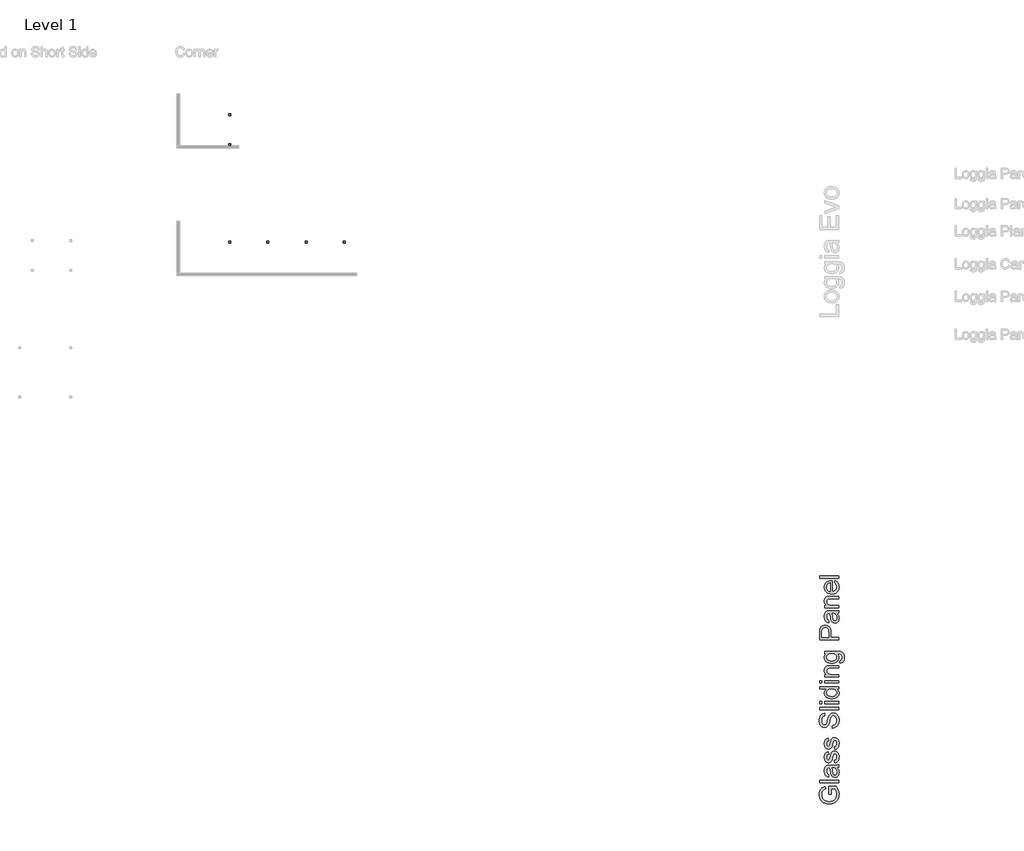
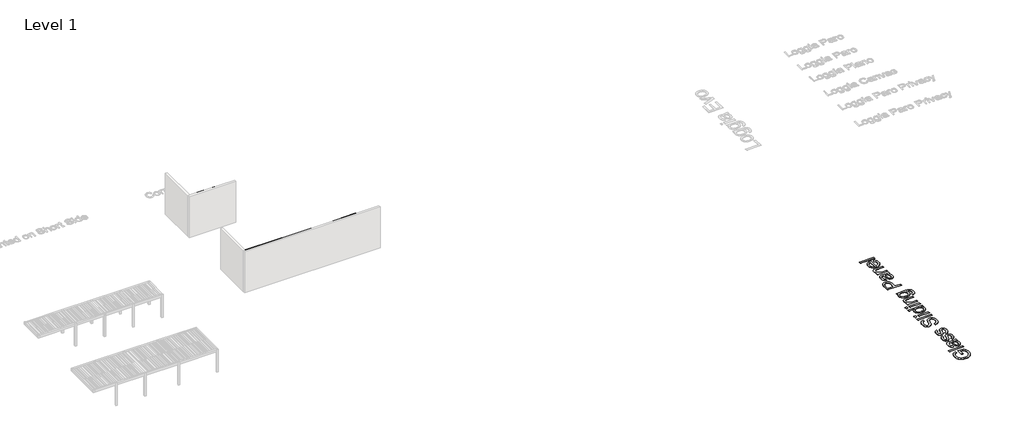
# One storey, part 21 of 69: 3 proxies.
"""IFC4 building model written with IfcOpenShell, lengths in millimetres."""

from ifc_helpers import new_model, si_unit, origin, origin_with_axes, place, context, project, spatial, polyline, outline, extrude, transform, mapped, element, save
from components import generic_models_d841620f, generic_models_8b32eeaf

model = new_model("IFC4")

# Units and contexts
model_context = context("Model", 3, world=origin())
ifc_project = project(units=[si_unit("LENGTHUNIT", "METRE", prefix="MILLI")], contexts=[model_context])

# Site, building, storey
site = spatial("IfcSite", under=ifc_project)
building = spatial("IfcBuilding", under=site)
storey = spatial("IfcBuildingStorey", under=building, Name="Level 1", Elevation=0.0)

# Proxies
placement = place(None, origin())
generic_models_shape = generic_models_d841620f(model_context)
element("IfcBuildingElementProxy", 1, Name="Renson_Camargue_Skye_Facade-Mounted_Patio covers : Renson_Camargue_Skye_Facade-Mounted_Patio covers", ObjectType="Renson_Camargue_Skye_Facade-Mounted_Patio covers : Renson_Camargue_Skye_Facade-Mounted_Patio covers", at=placement, inside=storey, context=model_context, shape_type="MappedRepresentation", body=[
    mapped(generic_models_shape, transform((135155.025111, -10875.9863343, 0.0), x_axis=(1.0, 0.0, 0.0), y_axis=(0.0, 1.0, 0.0), z_axis=(0.0, 0.0, 1.0))),
])
generic_models_2_shape = generic_models_8b32eeaf(model_context)
element("IfcBuildingElementProxy", 2, Name="Renson_Camargue_Skye_Facade-Mounted_Patio covers : Renson_Camargue_Skye_Facade-Mounted_Patio covers", ObjectType="Renson_Camargue_Skye_Facade-Mounted_Patio covers : Renson_Camargue_Skye_Facade-Mounted_Patio covers", at=placement, inside=storey, context=model_context, shape_type="MappedRepresentation", body=[
    mapped(generic_models_2_shape, transform((135155.025111, -20875.9863343, 0.0), x_axis=(1.0, 0.0, 0.0), y_axis=(0.0, 1.0, 0.0), z_axis=(0.0, 0.0, 1.0))),
])
element("IfcBuildingElementProxy", 3, Name="1500mm", ObjectType="1500mm", at=placement, inside=storey, context=model_context, shape_type="SweptSolid", body=[
    extrude(outline(polyline([(184249.661956, -63004.2411081), (184061.3063744, -63004.2411081), (184061.3063744, -62392.0854681), (184624.533709, -62392.0854681), (184679.9229419, -62465.8802971), (184728.0005202, -62540.8477499), (184768.7664438, -62616.9878266), (184802.2207127, -62694.3005271), (184828.2943491, -62772.693881), (184846.9183751, -62852.0759178), (184858.0927907, -62932.4466374), (184861.8175959, -63013.8060399), (184855.8969951, -63121.9978355), (184838.1351925, -63225.1082609), (184824.8138406, -63274.7579599), (184808.5321882, -63323.1373163), (184789.2902354, -63370.2463302), (184767.0879822, -63416.0850017), (184742.0806287, -63459.9031962), (184714.4233753, -63500.9507794), (184684.1162219, -63539.2277514), (184651.1591684, -63574.7341121), (184615.552215, -63607.4698615), (184577.2953616, -63637.4349996), (184536.3886082, -63664.6295265), (184492.8319548, -63689.0534421), (184400.4705813, -63729.3710095), (184302.9128748, -63758.1692719), (184200.158835, -63775.4482294), (184092.208462, -63781.2078819), (183984.2465927, -63775.471222), (183879.986536, -63758.2612424), (183779.4282919, -63729.5779431), (183682.5718604, -63689.4213241), (183636.5952332, -63665.2187125), (183593.670877, -63638.5041567), (183553.7987917, -63609.2776566), (183516.9789773, -63577.5392123), (183483.2114339, -63543.2888237), (183452.4961613, -63506.5264909), (183424.8331597, -63467.2522139), (183400.2224291, -63425.4659925), (183378.5806211, -63381.6075609), (183359.8243875, -63336.116653), (183343.9537283, -63288.9932686), (183330.9686435, -63240.237408), (183313.6551971, -63137.8282576), (183307.8840483, -63028.8892017), (183311.2294752, -62949.3577129), (183321.2657559, -62873.7349703), (183337.9928903, -62802.0209738), (183361.4108786, -62734.2157236), (183390.795453, -62671.917207), (183425.4223458, -62616.7234114), (183465.291557, -62568.6343368), (183510.4030866, -62527.6499833), (183561.7801065, -62492.4597712), (183620.4457885, -62461.7531209), (183686.4001324, -62435.5300325), (183759.6431384, -62413.7905058), (183808.5714437, -62587.4308075), (183755.8838442, -62605.7674257), (183709.2892903, -62626.1963728), (183668.7877819, -62648.7176487), (183634.379319, -62673.3312534), (183604.5808774, -62701.7501375), (183577.9094328, -62735.6872516), (183554.3649851, -62775.1425956), (183533.9475343, -62820.1161695), (183517.4503261, -62869.1479416), (183505.666606, -62920.7778804), (183498.5963739, -62975.0059858), (183496.2396298, -63031.8322577), (183498.7803149, -63099.1891518), (183506.4023699, -63161.8325577), (183519.1057951, -63219.7624757), (183536.8905903, -63272.9789055), (183558.8025616, -63321.3783805), (183583.8875152, -63364.8574338), (183612.1454509, -63403.4160655), (183643.5763689, -63437.0542754), (183677.4100161, -63466.4963313), (183712.8761397, -63492.4665009), (183749.9747397, -63514.9647842), (183788.705816, -63533.9911811), (183858.3734688, -63559.7429208), (183930.8922071, -63578.1370205), (184006.2620309, -63589.1734804), (184084.4829401, -63592.8523003), (184178.5342714, -63588.4262201), (184264.607162, -63575.1479793), (184342.7016118, -63553.0175781), (184412.8176208, -63522.0350163), (184474.6907739, -63482.6026649), (184528.0566558, -63435.1228949), (184572.9152666, -63379.5957063), (184609.2666062, -63316.021099), (184637.3520973, -63247.3766179), (184657.4131624, -63176.6398081), (184669.4498014, -63103.8106693), (184673.4620144, -63028.8892017), (184670.4384842, -62963.2567545), (184661.3678938, -62898.4290492), (184646.2502431, -62834.4060857), (184625.085532, -62771.1878641), (184600.4949199, -62712.1543002), (184575.0995659, -62660.6853098), (184548.8994701, -62616.780893), (184521.8946324, -62580.4410496), (184249.661956, -62580.4410496), (184249.661956, -63004.2411081)])), origin_with_axes(), (0.0, 0.0, 1.0), 5.0),
    extrude(outline(polyline([(184838.2731482, -62109.5520958), (183331.428496, -62109.5520958), (183331.428496, -61921.1965143), (184838.2731482, -61921.1965143), (184838.2731482, -62109.5520958)])), origin_with_axes(), (0.0, 0.0, 1.0), 5.0),
    extrude(outline(polyline([(184697.0064621, -60932.3297112), (184738.9220169, -60976.9928847), (184774.1697106, -61022.3228443), (184802.7495431, -61068.31959), (184824.6615144, -61114.9831218), (184840.9173001, -61162.8422701), (184852.5285755, -61212.4258653), (184859.4953408, -61263.7339073), (184861.8175959, -61316.7663962), (184856.2303881, -61400.6319948), (184849.2463784, -61438.6934109), (184839.4687647, -61474.1739049), (184826.8975472, -61507.0734767), (184811.5327257, -61537.3921265), (184793.3743004, -61565.1298541), (184772.4222711, -61590.2866596), (184749.2974388, -61612.6613575), (184724.6206043, -61632.0527624), (184698.3917677, -61648.4608742), (184670.6109289, -61661.8856929), (184641.278088, -61672.3272186), (184610.3932448, -61679.7854512), (184543.9675521, -61685.7520373), (184504.029363, -61683.4987601), (184465.8845986, -61676.7389285), (184429.533259, -61665.4725424), (184394.975344, -61649.6996018), (184362.9696105, -61630.2593376), (184334.2748148, -61607.9909806), (184308.8909572, -61582.8945308), (184286.8180375, -61554.9699881), (184250.9495429, -61492.6599751), (184225.0138623, -61423.0842928), (184210.574494, -61355.3020352), (184196.6869486, -61260.1125689), (184182.4315213, -61156.507802), (184166.888507, -61067.5263445), (184150.0579058, -60993.1681962), (184131.9397175, -60933.4333572), (184090.00117, -60932.3297112), (184044.3378174, -60935.5716713), (184005.9401341, -60945.2975516), (183974.8081203, -60961.507352), (183950.9417759, -60984.2010725), (183927.1214167, -61023.4264903), (183910.1068744, -61071.2051644), (183899.898149, -61127.5370949), (183896.4952406, -61192.4222818), (183898.7600141, -61252.754929), (183905.5543347, -61304.6262903), (183916.8782024, -61348.0363658), (183932.7316171, -61382.9851553), (183954.3561806, -61411.7029436), (183982.9934947, -61436.4200151), (184018.6435593, -61457.13637), (184061.3063744, -61473.8520081), (184037.7619267, -61662.2075897), (183983.4993324, -61647.8716882), (183934.7549681, -61629.5120773), (183891.5288336, -61607.1287572), (183853.8209291, -61580.7217277), (183820.8724979, -61549.152854), (183791.9247835, -61511.2840011), (183766.9777857, -61467.1151691), (183746.0315046, -61416.6463579), (183729.4538221, -61360.9007393), (183717.6126204, -61300.9014851), (183710.5078994, -61236.6485954), (183708.1396591, -61168.1420701), (183710.2319879, -61101.1760507), (183716.5089744, -61040.8089146), (183726.9706187, -60987.0406617), (183741.6169206, -60939.8712921), (183759.4247084, -60898.9099312), (183779.3708104, -60863.7657044), (183801.4552264, -60834.4386116), (183825.6779565, -60810.9286528), (183852.636809, -60791.8677669), (183882.929592, -60775.8878928), (183916.5563056, -60762.9890303), (183953.5169498, -60753.1711796), (184018.632063, -60746.2733922), (184118.3280837, -60743.9741297), (184352.6689146, -60743.9741297), (184556.7974367, -60741.5828967), (184679.8999493, -60734.4091978), (184760.788003, -60720.245741), (184838.2731482, -60696.8852343), (184838.2731482, -60885.2408158), (184806.8192376, -60901.9794466), (184772.7901531, -60915.4071394), (184736.1858946, -60925.5238943), (184697.0064621, -60932.3297112)]), holes=[polyline([(184320.295299, -60932.3297112), (184336.5970699, -60989.25945), (184351.6572391, -61058.8811176), (184378.0527723, -61236.2002392), (184392.4921406, -61333.9188942), (184408.5869779, -61398.2522581), (184429.4642811, -61440.4207318), (184442.8689813, -61457.4007852), (184458.2510472, -61471.6447162), (184475.0586559, -61482.9111023), (184492.7399843, -61490.9585209), (184511.2950324, -61495.7869721), (184530.7238003, -61497.3964558), (184559.9934115, -61493.8900806), (184586.733834, -61483.3709548), (184610.9450678, -61465.8390784), (184632.6271129, -61441.2944516), (184650.4923823, -61409.9670004), (184663.253289, -61372.0866512), (184670.9098331, -61327.653404), (184673.4620144, -61276.6672587), (184670.6454179, -61224.6119564), (184662.1956283, -61175.49971), (184648.1126457, -61129.3305196), (184628.39647, -61086.1043852), (184604.6795776, -61047.1088937), (184578.5944449, -61013.6316322), (184550.1410718, -60985.6726005), (184519.3194584, -60963.2317988), (184491.7283088, -60950.1949806), (184458.2510472, -60940.8829676), (184418.8876737, -60935.2957598), (184373.6381883, -60933.4333572), (184320.295299, -60932.3297112)])]), origin_with_axes(), (0.0, 0.0, 1.0), 5.0),
    extrude(outline(polyline([(184508.6508806, -60555.6185482), (184485.1064329, -60367.2629666), (184528.0566558, -60355.8816174), (184565.6725898, -60337.5564955), (184597.9542349, -60312.287601), (184624.901591, -60280.0749338), (184646.1467763, -60240.8265234), (184661.3219086, -60194.4503994), (184670.4269879, -60140.9465617), (184673.4620144, -60080.3150104), (184670.6799068, -60019.7524369), (184662.333584, -59967.5591789), (184648.4230461, -59923.7352362), (184628.948293, -59888.2806089), (184605.725742, -59860.9193855), (184580.5718106, -59841.3756545), (184553.4864987, -59829.6494159), (184524.4698063, -59825.7406697), (184499.0399634, -59829.6724086), (184476.461206, -59841.467625), (184456.733534, -59861.1263191), (184439.8569475, -59888.6484909), (184415.9446178, -59959.1898635), (184386.1461762, -60082.5223024), (184336.4361216, -60254.4151646), (184314.3057203, -60317.8058309), (184293.9917364, -60366.1593206), (184272.7120622, -60404.522515), (184247.6845902, -60437.942295), (184218.9093204, -60466.4186606), (184186.3862528, -60489.951612), (184151.0925739, -60508.3802007), (184114.0054702, -60521.5434784), (184075.1249419, -60529.4414449), (184034.4509888, -60532.0741005), (183997.2604183, -60529.958779), (183961.472398, -60523.6128146), (183927.0869277, -60513.0362072), (183894.1040076, -60498.2289569), (183863.1904237, -60479.7658793), (183835.0129621, -60458.2217899), (183809.5716229, -60433.5966889), (183786.866406, -60405.8905761), (183756.5621267, -60353.8812591), (183731.1322837, -60286.1449867), (183713.8878152, -60207.832107), (183708.1396591, -60124.0929678), (183710.4504178, -60060.794272), (183717.3826942, -60001.4962929), (183728.9364881, -59946.1990305), (183745.1117996, -59894.9024848), (183765.2303462, -59848.8252649), (183788.6138455, -59809.18598), (183815.2622975, -59775.9846299), (183845.1757023, -59749.2212147), (183879.4002241, -59727.516177), (183918.9820275, -59709.4899593), (183963.9211125, -59695.1425614), (184014.217479, -59684.4739836), (184037.7619267, -59872.8295651), (184006.2965198, -59881.8081851), (183978.4869403, -59896.6039391), (183954.333188, -59917.2168271), (183933.8352631, -59943.6468492), (183917.4990032, -59976.0089685), (183905.8302462, -60014.418148), (183898.828992, -60058.8743879), (183896.4952406, -60109.377688), (183898.7255252, -60167.9628957), (183905.416379, -60217.5349946), (183916.5678019, -60258.0939846), (183932.1797941, -60289.6398657), (183950.7578349, -60313.2992765), (183970.8074036, -60330.1988556), (183992.3285003, -60340.3386031), (184015.321125, -60343.7185189), (184044.2918321, -60338.1083185), (184070.1355423, -60321.2777172), (184093.2201375, -60292.4909511), (184111.7062078, -60251.0122562), (184151.8053452, -60088.7762963), (184201.0095621, -59922.3556787), (184240.4649061, -59812.3129769), (184259.7097329, -59773.5933969), (184282.863306, -59739.2884009), (184309.9256253, -59709.3979888), (184340.8966908, -59683.9221606), (184375.8224877, -59663.5621914), (184414.7490013, -59649.0193563), (184457.6762316, -59640.2936552), (184504.6041786, -59637.3850882), (184551.7390592, -59640.799493), (184597.4943824, -59651.0427073), (184641.8701481, -59668.1147311), (184684.8663562, -59692.0155645), (184724.7700564, -59722.3543328), (184759.868298, -59758.7401614), (184790.1610811, -59801.1730502), (184815.6484055, -59849.6529994), (184835.8474263, -59902.857933), (184850.2752983, -59959.465775), (184858.9320215, -60019.4765254), (184861.8175959, -60082.8901844), (184856.2533807, -60184.2646667), (184849.2981118, -60230.1407011), (184839.5607352, -60272.8092644), (184827.0412511, -60312.2703565), (184811.7396593, -60348.5239775), (184793.65596, -60381.5701274), (184772.7901531, -60411.4088061), (184749.1882238, -60438.3676585), (184722.8961575, -60462.7743296), (184693.9139541, -60484.6288194), (184662.2416135, -60503.9311278), (184627.8791359, -60520.6812549), (184590.8265212, -60534.8792007), (184508.6508806, -60555.6185482)])), origin_with_axes(), (0.0, 0.0, 1.0), 5.0),
    extrude(outline(polyline([(184508.6508806, -59496.1184021), (184485.1064329, -59307.7628205), (184528.0566558, -59296.3814713), (184565.6725898, -59278.0563494), (184597.9542349, -59252.7874549), (184624.901591, -59220.5747877), (184646.1467763, -59181.3263773), (184661.3219086, -59134.9502533), (184670.4269879, -59081.4464156), (184673.4620144, -59020.8148643), (184670.6799068, -58960.2522908), (184662.333584, -58908.0590328), (184648.4230461, -58864.2350901), (184628.948293, -58828.7804628), (184605.725742, -58801.4192394), (184580.5718106, -58781.8755084), (184553.4864987, -58770.1492698), (184524.4698063, -58766.2405236), (184499.0399634, -58770.1722624), (184476.461206, -58781.9674789), (184456.733534, -58801.626173), (184439.8569475, -58829.1483448), (184415.9446178, -58899.6897174), (184386.1461762, -59023.0221563), (184336.4361216, -59194.9150185), (184314.3057203, -59258.3056848), (184293.9917364, -59306.6591745), (184272.7120622, -59345.0223688), (184247.6845902, -59378.4421488), (184218.9093204, -59406.9185145), (184186.3862528, -59430.4514659), (184151.0925739, -59448.8800546), (184114.0054702, -59462.0433323), (184075.1249419, -59469.9412988), (184034.4509888, -59472.5739544), (183997.2604183, -59470.4586329), (183961.472398, -59464.1126685), (183927.0869277, -59453.5360611), (183894.1040076, -59438.7288108), (183863.1904237, -59420.2657332), (183835.0129621, -59398.7216438), (183809.5716229, -59374.0965428), (183786.866406, -59346.39043), (183756.5621267, -59294.381113), (183731.1322837, -59226.6448406), (183713.8878152, -59148.3319609), (183708.1396591, -59064.5928217), (183710.4504178, -59001.2941259), (183717.3826942, -58941.9961468), (183728.9364881, -58886.6988844), (183745.1117996, -58835.4023387), (183765.2303462, -58789.3251188), (183788.6138455, -58749.6858338), (183815.2622975, -58716.4844838), (183845.1757023, -58689.7210686), (183879.4002241, -58668.0160309), (183918.9820275, -58649.9898131), (183963.9211125, -58635.6424153), (184014.217479, -58624.9738375), (184037.7619267, -58813.329419), (184006.2965198, -58822.308039), (183978.4869403, -58837.1037929), (183954.333188, -58857.716681), (183933.8352631, -58884.1467031), (183917.4990032, -58916.5088223), (183905.8302462, -58954.9180019), (183898.828992, -58999.3742418), (183896.4952406, -59049.8775419), (183898.7255252, -59108.4627496), (183905.416379, -59158.0348485), (183916.5678019, -59198.5938385), (183932.1797941, -59230.1397195), (183950.7578349, -59253.7991304), (183970.8074036, -59270.6987095), (183992.3285003, -59280.838457), (184015.321125, -59284.2183728), (184044.2918321, -59278.6081724), (184070.1355423, -59261.7775711), (184093.2201375, -59232.990805), (184111.7062078, -59191.51211), (184151.8053452, -59029.2761502), (184201.0095621, -58862.8555326), (184240.4649061, -58752.8128308), (184259.7097329, -58714.0932508), (184282.863306, -58679.7882548), (184309.9256253, -58649.8978427), (184340.8966908, -58624.4220145), (184375.8224877, -58604.0620453), (184414.7490013, -58589.5192102), (184457.6762316, -58580.7935091), (184504.6041786, -58577.8849421), (184551.7390592, -58581.2993469), (184597.4943824, -58591.5425612), (184641.8701481, -58608.614585), (184684.8663562, -58632.5154184), (184724.7700564, -58662.8541867), (184759.868298, -58699.2400153), (184790.1610811, -58741.6729041), (184815.6484055, -58790.1528533), (184835.8474263, -58843.3577869), (184850.2752983, -58899.9656289), (184858.9320215, -58959.9763793), (184861.8175959, -59023.3900383), (184856.2533807, -59124.7645205), (184849.2981118, -59170.640555), (184839.5607352, -59213.3091183), (184827.0412511, -59252.7702104), (184811.7396593, -59289.0238314), (184793.65596, -59322.0699812), (184772.7901531, -59351.9086599), (184749.1882238, -59378.8675124), (184722.8961575, -59403.2741835), (184693.9139541, -59425.1286733), (184662.2416135, -59444.4309817), (184627.8791359, -59461.1811088), (184590.8265212, -59475.3790546), (184508.6508806, -59496.1184021)])), origin_with_axes(), (0.0, 0.0, 1.0), 5.0),
    extrude(outline(polyline([(184320.295299, -57824.462616), (184320.295299, -57636.1070344), (184375.1212126, -57627.4848002), (184424.8197709, -57614.4939672), (184469.3909739, -57597.1345356), (184508.8348216, -57575.4065052), (184543.9445595, -57548.2062302), (184575.5134332, -57514.4300645), (184603.5414427, -57474.0780082), (184628.028588, -57427.1500612), (184647.905712, -57375.3706704), (184662.1036578, -57320.4642826), (184670.6224252, -57262.4308978), (184673.4620144, -57201.2705161), (184671.312204, -57147.1688702), (184664.8627728, -57096.332177), (184654.1137207, -57048.7604365), (184639.0650478, -57004.4536487), (184620.2570808, -56964.5039633), (184598.2301464, -56930.0035299), (184572.9842445, -56900.9523486), (184544.5193751, -56877.3504194), (184514.0656437, -56859.0827791), (184482.8531556, -56846.0344646), (184450.881911, -56838.2054758), (184418.1519097, -56835.5958129), (184385.5598642, -56837.550186), (184355.1061328, -56843.4133053), (184326.7907155, -56853.1851708), (184300.6136123, -56866.8657825), (184276.4368674, -56886.5934545), (184254.1225251, -56914.5065009), (184233.6705855, -56950.6049217), (184215.0810484, -56994.8887168), (184185.512533, -57094.3548113), (184143.1601183, -57269.1447443), (184119.075344, -57367.2657702), (184095.5653852, -57449.1769956), (184072.6302421, -57514.8784207), (184050.2699146, -57564.3700454), (184020.2645393, -57614.6664119), (183986.9022409, -57658.1339689), (183950.1830193, -57694.7727164), (183910.1068744, -57724.5826543), (183867.0876736, -57747.6787458), (183821.5392841, -57764.175954), (183773.4617058, -57774.0742789), (183722.8549389, -57777.3737206), (183666.7644309, -57773.2925297), (183612.5363256, -57761.0489571), (183560.1706228, -57740.6430026), (183509.6673227, -57712.0746664), (183463.084265, -57675.6658452), (183422.4792898, -57631.7384357), (183387.852397, -57580.292438), (183359.2035866, -57521.3278519), (183336.7512886, -57456.8335397), (183320.7139329, -57388.7983632), (183311.0915194, -57317.2223225), (183307.8840483, -57242.1054176), (183311.2409715, -57160.1597032), (183321.3117411, -57083.1803957), (183338.0963572, -57011.1674951), (183361.5948196, -56944.1210015), (183391.6001948, -56883.2825166), (183427.9055492, -56829.893642), (183470.5108828, -56783.9543779), (183519.4161955, -56745.4647241), (183573.1959447, -56714.7235849), (183630.4245876, -56692.0298643), (183691.1021241, -56677.3835624), (183755.2285544, -56670.7846791), (183755.2285544, -56859.1402606), (183695.1258335, -56871.740219), (183642.8406049, -56893.7211682), (183598.3728687, -56925.0831083), (183561.722625, -56965.8260392), (183533.0738146, -57016.7087177), (183512.6103786, -57078.4899003), (183500.332317, -57151.1695869), (183496.2396298, -57234.7477777), (183500.2863318, -57320.9931129), (183512.4264376, -57394.6844751), (183532.6599474, -57455.8218642), (183545.8117287, -57481.6828188), (183560.986861, -57504.4052802), (183595.0389382, -57541.4234059), (183632.4479385, -57567.8649243), (183673.2138621, -57583.7298354), (183717.3367089, -57589.0181391), (183755.2975323, -57585.2703412), (183789.7174915, -57574.0269478), (183820.5965865, -57555.2879586), (183847.9348172, -57529.0533738), (183873.8245126, -57487.7586199), (183899.9901195, -57422.7354772), (183926.4316379, -57333.9839459), (183953.1490678, -57221.5040259), (183979.1997116, -57107.4146221), (184003.6408717, -57013.8346396), (184026.472548, -56940.7640783), (184047.6947406, -56888.2029382), (184079.8614226, -56830.4569613), (184116.0288212, -56780.8273809), (184156.1969366, -56739.314197), (184200.3657686, -56705.9174096), (184248.3053911, -56680.2461442), (184299.7858778, -56661.909526), (184354.8072287, -56650.907555), (184413.3694438, -56647.2402314), (184472.2880446, -56651.459378), (184529.4821985, -56664.1168179), (184584.9519056, -56685.2125511), (184638.6971659, -56714.7465775), (184688.6371467, -56752.2015632), (184732.6910156, -56797.0601739), (184770.8587726, -56849.3224099), (184803.1404177, -56908.988271), (184828.8116832, -56974.3218141), (184847.1483014, -57043.587096), (184858.1502723, -57116.7841167), (184861.8175959, -57193.9128762), (184857.8628645, -57290.26347), (184845.9986701, -57378.4516821), (184826.2250129, -57458.4775123), (184798.5418928, -57530.3409608), (184762.9033245, -57594.4788874), (184719.2633228, -57651.328152), (184667.6218877, -57700.8887545), (184607.9790193, -57743.160695), (184542.2660979, -57777.2127722), (184472.414504, -57802.1137848), (184398.4242378, -57817.8637327), (184320.295299, -57824.462616)])), origin_with_axes(), (0.0, 0.0, 1.0), 5.0),
    extrude(outline(polyline([(184838.2731482, -56388.2513068), (183331.428496, -56388.2513068), (183331.428496, -56199.8957253), (184838.2731482, -56199.8957253), (184838.2731482, -56388.2513068)])), origin_with_axes(), (0.0, 0.0, 1.0), 5.0),
    extrude(outline(polyline([(183519.7840775, -55917.362353), (183331.428496, -55917.362353), (183331.428496, -55729.0067714), (183519.7840775, -55729.0067714), (183519.7840775, -55917.362353)])), origin_with_axes(), (0.0, 0.0, 1.0), 5.0),
    extrude(outline(polyline([(184838.2731482, -55917.362353), (183731.6841067, -55917.362353), (183731.6841067, -55729.0067714), (184838.2731482, -55729.0067714), (184838.2731482, -55917.362353)])), origin_with_axes(), (0.0, 0.0, 1.0), 5.0),
    extrude(outline(polyline([(184838.2731482, -54763.6844161), (184660.5861446, -54763.6844161), (184707.749766, -54790.3731052), (184748.6249045, -54820.0393392), (184783.2115602, -54852.6831182), (184811.5097331, -54888.304442), (184833.5194231, -54926.9033107), (184849.2406302, -54968.4797243), (184858.6733545, -55013.0336828), (184861.8175959, -55060.5651862), (184857.2650562, -55122.7372434), (184843.6074372, -55182.3341266), (184820.8447387, -55239.3558359), (184788.9769609, -55293.8023712), (184748.9582976, -55343.9722782), (184701.7429428, -55388.1641029), (184647.3308964, -55426.3778452), (184585.7221585, -55458.613505), (184518.089353, -55484.2042963), (184445.6051036, -55502.4834329), (184368.2694105, -55513.4509149), (184286.0822735, -55517.1067422), (184205.4011534, -55513.7383227), (184128.536809, -55503.6330642), (184055.4892404, -55486.7909666), (183986.2584474, -55463.2120299), (183922.8677811, -55432.9077506), (183867.3405925, -55395.8896248), (183819.6768815, -55352.1576526), (183779.8766481, -55301.711834), (183748.4917154, -55246.3340975), (183726.0739063, -55187.8063713), (183712.6232209, -55126.1286555), (183708.1396591, -55061.3009502), (183711.3471302, -55013.8901581), (183720.9695436, -54969.1465104), (183737.0068994, -54927.0700072), (183759.4591974, -54887.6606485), (183787.0388507, -54851.3552941), (183818.4582724, -54818.5908039), (183853.7174623, -54789.3671779), (183892.8164206, -54763.6844161), (183331.428496, -54763.6844161), (183331.428496, -54575.3288346), (184838.2731482, -54575.3288346), (184838.2731482, -54763.6844161)]), holes=[polyline([(184285.3465095, -55328.7511607), (184376.6847111, -55323.4398644), (184417.7409166, -55316.800744), (184455.7218585, -55307.5059755), (184490.6275369, -55295.5555588), (184522.4579517, -55280.9494939), (184551.213103, -55263.687781), (184576.8929907, -55243.7704198), (184619.1419385, -55199.3716615), (184649.3197585, -55151.1561275), (184667.4264504, -55099.1238178), (184673.4620144, -55043.2747324), (184667.7023619, -54987.1612319), (184650.4234044, -54935.4393226), (184621.625142, -54888.1090047), (184581.3075746, -54845.170278), (184556.7485773, -54826.0720291), (184529.1488055, -54809.5202134), (184498.508259, -54795.5148309), (184464.8269379, -54784.0558816), (184388.3419718, -54768.7772825), (184299.6939073, -54763.6844161), (184202.5040827, -54768.869253), (184159.0997554, -54775.3502991), (184119.1558182, -54784.4237636), (184082.6722709, -54796.0896465), (184049.6491137, -54810.3479479), (184020.0863465, -54827.1986678), (183993.9839693, -54846.641806), (183951.3326505, -54890.5232303), (183934.5767752, -54914.2659893), (183920.8674228, -54939.2101131), (183910.2045931, -54965.3556014), (183902.5882861, -54992.7024544), (183896.4952406, -55051.0002543), (183902.3468636, -55107.9529857), (183919.9017325, -55159.9852954), (183949.1598475, -55207.0971834), (183990.1212084, -55249.2886497), (184015.2147841, -55267.9126757), (184043.6825276, -55284.0534983), (184075.5244387, -55297.7111174), (184110.7405175, -55308.885533), (184191.2951782, -55323.7847538), (184285.3465095, -55328.7511607)])]), origin_with_axes(), (0.0, 0.0, 1.0), 5.0),
    extrude(outline(polyline([(183519.7840775, -54292.7954623), (183331.428496, -54292.7954623), (183331.428496, -54104.4398807), (183519.7840775, -54104.4398807), (183519.7840775, -54292.7954623)])), origin_with_axes(), (0.0, 0.0, 1.0), 5.0),
    extrude(outline(polyline([(184838.2731482, -54292.7954623), (183731.6841067, -54292.7954623), (183731.6841067, -54104.4398807), (184838.2731482, -54104.4398807), (184838.2731482, -54292.7954623)])), origin_with_axes(), (0.0, 0.0, 1.0), 5.0),
    extrude(outline(polyline([(184838.2731482, -53821.9065084), (183731.6841067, -53821.9065084), (183731.6841067, -53633.5509269), (183886.1945447, -53633.5509269), (183844.4629309, -53602.4763946), (183808.2955322, -53568.113917), (183777.6923488, -53530.4634941), (183752.6533805, -53489.5251258), (183733.1786273, -53445.2988122), (183719.2680894, -53397.7845533), (183710.9217666, -53346.982349), (183708.1396591, -53292.8921994), (183710.38144, -53245.4929036), (183717.1067827, -53200.0479809), (183728.3156872, -53156.5574312), (183744.0081536, -53115.0212547), (183763.344951, -53077.0144461), (183785.4868485, -53044.1120001), (183810.4338463, -53016.3139169), (183838.1859443, -52993.6201963), (183868.7086536, -52974.984674), (183901.9674853, -52959.3611855), (183937.9624392, -52946.7497309), (183976.6935155, -52937.15031), (184048.1545931, -52929.7006996), (184158.7951031, -52927.2174962), (184838.2731482, -52927.2174962), (184838.2731482, -53115.5730777), (184184.1789608, -53115.5730777), (184086.7822026, -53120.9993371), (184048.6374382, -53127.7821614), (184017.528417, -53137.2781154), (183991.3283212, -53150.2114668), (183967.9103329, -53167.3064833), (183947.2744522, -53188.5631648), (183929.4206791, -53213.9815114), (183915.0157998, -53242.6878034), (183904.7266002, -53273.8083209), (183898.5530805, -53307.343064), (183896.4952406, -53343.2920327), (183901.1167581, -53400.4861867), (183914.9813108, -53453.610646), (183938.0888987, -53502.6654108), (183970.4395216, -53547.650481), (183991.0006762, -53567.783398), (184015.7119996, -53585.2319261), (184044.5734918, -53599.9960652), (184077.5851527, -53612.0758154), (184114.7469824, -53621.4711767), (184156.0589808, -53628.1821491), (184251.1334839, -53633.5509269), (184838.2731482, -53633.5509269), (184838.2731482, -53821.9065084)])), origin_with_axes(), (0.0, 0.0, 1.0), 5.0),
    extrude(outline(polyline([(184932.450939, -52715.317467), (184955.9953867, -52526.9618854), (184987.7252088, -52519.0064373), (185014.8565059, -52506.1765527), (185037.3892781, -52488.4722317), (185055.3235254, -52465.8934742), (185073.6716399, -52429.3581936), (185086.777436, -52386.7068748), (185094.6409136, -52337.9395178), (185097.2620728, -52283.0561226), (185094.2960243, -52224.2409886), (185085.3978785, -52172.5075831), (185070.5676356, -52127.8559059), (185049.8052955, -52090.2859572), (185023.6856738, -52059.0159876), (184992.7835862, -52033.2642479), (184957.0990327, -52013.0307382), (184916.6320132, -51998.3154584), (184883.3157, -51992.2683981), (184835.6060038, -51988.106733), (184697.0064621, -51985.4395885), (184730.1158417, -52015.8703273), (184758.8106373, -52048.1174835), (184783.090849, -52082.1810569), (184802.9564767, -52118.0610478), (184818.4075205, -52155.757456), (184829.4439803, -52195.2702815), (184836.0658563, -52236.5995244), (184838.2731482, -52279.7451847), (184835.7037224, -52332.9242515), (184827.995445, -52383.0165585), (184815.1483159, -52430.0221056), (184797.1623353, -52473.9408929), (184774.037503, -52514.7729203), (184745.7738191, -52552.5181878), (184712.3712835, -52587.1766954), (184673.8298964, -52618.7484432), (184631.6959116, -52646.9000381), (184587.5155833, -52671.298087), (184541.2889113, -52691.9425899), (184493.0158958, -52708.8335468), (184442.6965366, -52721.9709577), (184390.3308339, -52731.3548227), (184335.9187875, -52736.9851417), (184279.4603976, -52738.8619146), (184201.8947781, -52735.4934951), (184127.3871778, -52725.3882366), (184055.9375966, -52708.546139), (183987.5460344, -52684.9672024), (183924.4887612, -52655.0078124), (183869.0420467, -52619.0243547), (183821.205891, -52577.0168294), (183780.9802941, -52528.9852364), (183749.1125163, -52475.6998287), (183726.3498178, -52417.9308591), (183712.6921987, -52355.6783277), (183708.1396591, -52288.9422345), (183710.714833, -52243.8824383), (183718.4403549, -52200.8574893), (183731.3162247, -52159.8673876), (183749.3424425, -52120.9121333), (183772.5190082, -52083.9917261), (183800.8459218, -52049.1061663), (183834.3231834, -52016.2554538), (183872.9507929, -51985.4395885), (183731.6841067, -51985.4395885), (183731.6841067, -51797.084007), (184687.0736482, -51797.084007), (184806.7847487, -51800.3029745), (184907.6648896, -51809.9598768), (184989.7140708, -51826.0547141), (185052.9322924, -51848.5874863), (185103.9184377, -51878.0985201), (185149.2713899, -51915.1281422), (185188.9911491, -51959.6763526), (185223.0777152, -52011.7431512), (185250.4389386, -52070.7997077), (185269.9826696, -52136.3171918), (185281.7089082, -52208.2956034), (185285.6176544, -52286.7349426), (185280.1109208, -52379.0158418), (185263.5907199, -52461.984728), (185251.2005693, -52499.9771663), (185236.0570518, -52535.6416013), (185218.1601676, -52568.978033), (185197.5099165, -52599.9864615), (185174.0948023, -52627.9023819), (185147.9033287, -52651.9612896), (185118.9354957, -52672.1631845), (185087.1913032, -52688.5080666), (185052.6707513, -52700.9959358), (185015.37384, -52709.6267923), (184975.3005692, -52714.400636), (184932.450939, -52715.317467)]), holes=[polyline([(184266.5845277, -52550.5063331), (184359.7161541, -52545.4824446), (184439.3511097, -52530.4107791), (184474.107336, -52519.10703), (184505.4893947, -52505.2913366), (184533.4972856, -52488.963699), (184558.1310089, -52470.1241172), (184598.2876279, -52427.3693315), (184626.9709273, -52379.4871906), (184644.1809068, -52326.4776944), (184649.9175667, -52268.3408428), (184644.2153958, -52210.7788069), (184627.108883, -52158.0222295), (184598.5980284, -52110.0711107), (184558.6828319, -52066.9254505), (184534.24742, -52047.8272016), (184506.5585517, -52031.2753859), (184475.616227, -52017.2700033), (184441.4204459, -52005.811054), (184363.2685146, -51990.5324549), (184272.1027577, -51985.4395885), (184184.7422801, -51990.681907), (184108.809137, -52006.4088623), (184075.1278159, -52018.2040787), (184044.3033285, -52032.6204544), (184016.3356746, -52049.6579893), (183991.2248543, -52069.3166834), (183949.7806483, -52113.393545), (183920.177644, -52161.7470347), (183902.4158414, -52214.3771526), (183896.4952406, -52271.2838988), (183902.3238709, -52327.236451), (183919.809762, -52378.8433971), (183948.9529138, -52426.1047372), (183989.7533264, -52469.0204712), (184014.4790201, -52488.1187201), (184042.0270586, -52504.6705358), (184072.3974418, -52518.6759183), (184105.5901696, -52530.1348676), (184180.4426593, -52545.4134667), (184266.5845277, -52550.5063331)])]), origin_with_axes(), (0.0, 0.0, 1.0), 5.0),
    extrude(outline(polyline([(184838.2731482, -50902.3949947), (183331.428496, -50902.3949947), (183331.428496, -50343.950126), (183335.0153454, -50213.9038408), (183345.7758938, -50118.806345), (183357.0767688, -50066.394657), (183372.5852942, -50018.4205456), (183392.3014699, -49974.8840107), (183416.2252959, -49935.7850524), (183444.8511136, -49900.7098034), (183478.6732646, -49869.2443965), (183517.6917487, -49841.3888317), (183561.906566, -49817.143109), (183609.8576848, -49797.5074075), (183660.0850734, -49783.4819064), (183712.5887319, -49775.0666058), (183767.3686603, -49772.2615055), (183814.543778, -49774.155523), (183859.8679894, -49779.8375754), (183903.3412946, -49789.3076627), (183944.9636934, -49802.5657849), (183984.735186, -49819.611942), (184022.6557723, -49840.4461341), (184058.7254523, -49865.0683611), (184092.944226, -49893.478623), (184124.156714, -49926.8322992), (184151.207537, -49966.2847691), (184174.0966949, -50011.8360327), (184192.8241877, -50063.48609), (184207.3900154, -50121.234941), (184217.7941781, -50185.0825857), (184224.0366757, -50255.0290241), (184226.1175083, -50331.0742562), (184226.1175083, -50714.0394132), (184838.2731482, -50714.0394132), (184838.2731482, -50902.3949947)]), holes=[polyline([(184037.7619267, -50714.0394132), (184037.7619267, -50320.0377964), (184033.4393133, -50229.446855), (184020.471473, -50153.0193706), (184010.7455927, -50120.1169246), (183998.8584057, -50090.7553429), (183984.809912, -50064.9346253), (183968.6001116, -50042.654772), (183930.5013325, -50006.7632848), (183885.3668102, -49981.1265083), (183833.1965448, -49965.7444424), (183773.9905362, -49960.6170871), (183730.0286378, -49963.6406172), (183689.3776773, -49972.7112077), (183652.0376548, -49987.8288584), (183618.0085702, -50008.9935694), (183588.3940696, -50035.0787022), (183564.2977989, -50064.957618), (183545.7197582, -50098.6303168), (183532.6599474, -50136.0967988), (183523.003045, -50208.7534928), (183519.7840775, -50324.4523803), (183519.7840775, -50714.0394132), (184037.7619267, -50714.0394132)])]), origin_with_axes(), (0.0, 0.0, 1.0), 5.0),
    extrude(outline(polyline([(184697.0064621, -48830.4835979), (184738.9220169, -48875.1467714), (184774.1697106, -48920.476731), (184802.7495431, -48966.4734767), (184824.6615144, -49013.1370085), (184840.9173001, -49060.9961568), (184852.5285755, -49110.579752), (184859.4953408, -49161.887794), (184861.8175959, -49214.9202828), (184856.2303881, -49298.7858814), (184849.2463784, -49336.8472975), (184839.4687647, -49372.3277915), (184826.8975472, -49405.2273634), (184811.5327257, -49435.5460131), (184793.3743004, -49463.2837408), (184772.4222711, -49488.4405463), (184749.2974388, -49510.8152442), (184724.6206043, -49530.206649), (184698.3917677, -49546.6147608), (184670.6109289, -49560.0395796), (184641.278088, -49570.4811053), (184610.3932448, -49577.9393379), (184543.9675521, -49583.905924), (184504.029363, -49581.6526468), (184465.8845986, -49574.8928151), (184429.533259, -49563.626429), (184394.975344, -49547.8534885), (184362.9696105, -49528.4132243), (184334.2748148, -49506.1448673), (184308.8909572, -49481.0484174), (184286.8180375, -49453.1238747), (184250.9495429, -49390.8138618), (184225.0138623, -49321.2381795), (184210.574494, -49253.4559218), (184196.6869486, -49158.2664556), (184182.4315213, -49054.6616887), (184166.888507, -48965.6802311), (184150.0579058, -48891.3220828), (184131.9397175, -48831.5872439), (184090.00117, -48830.4835979), (184044.3378174, -48833.725558), (184005.9401341, -48843.4514382), (183974.8081203, -48859.6612386), (183950.9417759, -48882.3549592), (183927.1214167, -48921.5803769), (183910.1068744, -48969.3590511), (183899.898149, -49025.6909816), (183896.4952406, -49090.5761685), (183898.7600141, -49150.9088157), (183905.5543347, -49202.780177), (183916.8782024, -49246.1902524), (183932.7316171, -49281.139042), (183954.3561806, -49309.8568302), (183982.9934947, -49334.5739018), (184018.6435593, -49355.2902566), (184061.3063744, -49372.0058948), (184037.7619267, -49560.3614763), (183983.4993324, -49546.0255748), (183934.7549681, -49527.665964), (183891.5288336, -49505.2826439), (183853.8209291, -49478.8756144), (183820.8724979, -49447.3067407), (183791.9247835, -49409.4378878), (183766.9777857, -49365.2690558), (183746.0315046, -49314.8002445), (183729.4538221, -49259.054626), (183717.6126204, -49199.0553718), (183710.5078994, -49134.8024821), (183708.1396591, -49066.2959568), (183710.2319879, -48999.3299374), (183716.5089744, -48938.9628012), (183726.9706187, -48885.1945484), (183741.6169206, -48838.0251788), (183759.4247084, -48797.0638179), (183779.3708104, -48761.919591), (183801.4552264, -48732.5924982), (183825.6779565, -48709.0825395), (183852.636809, -48690.0216536), (183882.929592, -48674.0417794), (183916.5563056, -48661.142917), (183953.5169498, -48651.3250662), (184018.632063, -48644.4272788), (184118.3280837, -48642.1280164), (184352.6689146, -48642.1280164), (184556.7974367, -48639.7367834), (184679.8999493, -48632.5630845), (184760.788003, -48618.3996277), (184838.2731482, -48595.039121), (184838.2731482, -48783.3947025), (184806.8192376, -48800.1333333), (184772.7901531, -48813.5610261), (184736.1858946, -48823.677781), (184697.0064621, -48830.4835979)]), holes=[polyline([(184320.295299, -48830.4835979), (184336.5970699, -48887.4133366), (184351.6572391, -48957.0350042), (184378.0527723, -49134.3541259), (184392.4921406, -49232.0727809), (184408.5869779, -49296.4061448), (184429.4642811, -49338.5746185), (184442.8689813, -49355.5546718), (184458.2510472, -49369.7986028), (184475.0586559, -49381.0649889), (184492.7399843, -49389.1124076), (184511.2950324, -49393.9408588), (184530.7238003, -49395.5503425), (184559.9934115, -49392.0439672), (184586.733834, -49381.5248414), (184610.9450678, -49363.9929651), (184632.6271129, -49339.4483382), (184650.4923823, -49308.1208871), (184663.253289, -49270.2405379), (184670.9098331, -49225.8072906), (184673.4620144, -49174.8211454), (184670.6454179, -49122.7658431), (184662.1956283, -49073.6535967), (184648.1126457, -49027.4844063), (184628.39647, -48984.2582719), (184604.6795776, -48945.2627804), (184578.5944449, -48911.7855188), (184550.1410718, -48883.8264872), (184519.3194584, -48861.3856855), (184491.7283088, -48848.3488673), (184458.2510472, -48839.0368543), (184418.8876737, -48833.4496465), (184373.6381883, -48831.5872439), (184320.295299, -48830.4835979)])]), origin_with_axes(), (0.0, 0.0, 1.0), 5.0),
    extrude(outline(polyline([(184838.2731482, -48383.1390918), (183731.6841067, -48383.1390918), (183731.6841067, -48194.7835102), (183886.1945447, -48194.7835102), (183844.4629309, -48163.7089779), (183808.2955322, -48129.3465003), (183777.6923488, -48091.6960774), (183752.6533805, -48050.7577091), (183733.1786273, -48006.5313955), (183719.2680894, -47959.0171366), (183710.9217666, -47908.2149323), (183708.1396591, -47854.1247827), (183710.38144, -47806.7254869), (183717.1067827, -47761.2805642), (183728.3156872, -47717.7900145), (183744.0081536, -47676.253838), (183763.344951, -47638.2470294), (183785.4868485, -47605.3445835), (183810.4338463, -47577.5465002), (183838.1859443, -47554.8527796), (183868.7086536, -47536.2172573), (183901.9674853, -47520.5937688), (183937.9624392, -47507.9823142), (183976.6935155, -47498.3828934), (184048.1545931, -47490.933283), (184158.7951031, -47488.4500795), (184838.2731482, -47488.4500795), (184838.2731482, -47676.805661), (184184.1789608, -47676.805661), (184086.7822026, -47682.2319204), (184048.6374382, -47689.0147447), (184017.528417, -47698.5106987), (183991.3283212, -47711.4440501), (183967.9103329, -47728.5390666), (183947.2744522, -47749.7957481), (183929.4206791, -47775.2140947), (183915.0157998, -47803.9203867), (183904.7266002, -47835.0409042), (183898.5530805, -47868.5756473), (183896.4952406, -47904.524616), (183901.1167581, -47961.71877), (183914.9813108, -48014.8432293), (183938.0888987, -48063.8979941), (183970.4395216, -48108.8830644), (183991.0006762, -48129.0159814), (184015.7119996, -48146.4645094), (184044.5734918, -48161.2286486), (184077.5851527, -48173.3083988), (184114.7469824, -48182.70376), (184156.0589808, -48189.4147324), (184251.1334839, -48194.7835102), (184838.2731482, -48194.7835102), (184838.2731482, -48383.1390918)])), origin_with_axes(), (0.0, 0.0, 1.0), 5.0),
    extrude(outline(polyline([(184508.6508806, -46454.701673), (184532.1953282, -46270.0249115), (184606.1626019, -46298.3403288), (184639.8525452, -46316.2142204), (184671.3466929, -46336.5655673), (184700.6450449, -46359.3943696), (184727.7476013, -46384.7006271), (184752.654362, -46412.48434), (184775.3653271, -46442.7455082), (184795.6275776, -46475.3346796), (184813.1881947, -46510.1024022), (184828.0471784, -46547.0486761), (184840.2045287, -46586.1735011), (184856.4143291, -46670.9588046), (184861.8175959, -46764.458313), (184859.4867186, -46824.4863079), (184852.4940866, -46881.3298243), (184840.8397, -46934.9888622), (184824.5235587, -46985.4634216), (184803.5456627, -47032.7535024), (184777.9060121, -47076.8591048), (184747.6046068, -47117.7802286), (184712.6414469, -47155.5168739), (184673.4706366, -47189.4022545), (184630.5462804, -47218.7695844), (184583.8683782, -47243.6188635), (184533.43693, -47263.9500919), (184479.2519358, -47279.7632696), (184421.3133956, -47291.0583964), (184359.6213095, -47297.8354726), (184294.1756774, -47300.094498), (184226.5026347, -47297.81248), (184162.726842, -47290.9664259), (184102.8482991, -47279.5563359), (184046.8670061, -47263.5822099), (183994.782963, -47243.0440479), (183946.5961698, -47217.9418499), (183902.3066265, -47188.2756159), (183861.914333, -47154.0453459), (183825.8733938, -47116.176493), (183794.6379132, -47075.5945104), (183768.2078911, -47032.2993981), (183746.5833275, -46986.2911561), (183729.7642226, -46937.5697843), (183717.7505762, -46886.1352829), (183710.5423883, -46831.9876517), (183708.1396591, -46775.1268908), (183710.5366402, -46720.1256585), (183717.7275835, -46667.6938519), (183729.7124892, -46617.8314712), (183746.491357, -46570.5385163), (183768.0641872, -46525.8149872), (183794.4309795, -46483.6608838), (183825.5917342, -46444.0762063), (183861.546451, -46407.0609547), (183901.846774, -46373.5635746), (183946.0443468, -46344.5325118), (183994.1391695, -46319.9677664), (184046.1312421, -46299.8693383), (184102.0205646, -46284.2372276), (184161.807137, -46273.0714342), (184225.4909592, -46266.3719582), (184293.0720314, -46264.1387995), (184343.8397467, -46265.2424455), (184343.8397467, -47111.7389164), (184419.0026369, -47100.828916), (184453.0834548, -47091.3300879), (184484.8305214, -47079.1353746), (184514.2438365, -47064.244776), (184541.3234003, -47046.6582922), (184566.0692126, -47026.3759232), (184588.4812735, -47003.3976688), (184625.6603476, -46951.7447375), (184652.2168292, -46894.090731), (184668.1507181, -46830.4356495), (184673.4620144, -46760.779493), (184671.0018036, -46708.6782055), (184663.621171, -46660.5316493), (184651.3201168, -46616.3398247), (184634.0986409, -46576.1027314), (184611.4968908, -46539.8203697), (184583.0550141, -46507.4927393), (184548.7730107, -46479.1198405), (184508.6508806, -46454.701673)]), holes=[polyline([(184155.4841652, -47111.7389164), (184155.4841652, -46452.4943811), (184102.1872611, -46462.1742761), (184055.9720855, -46477.9702092), (184016.8386383, -46499.8821806), (183984.7869194, -46527.9101901), (183964.0935572, -46552.7077358), (183946.1593099, -46579.2757137), (183930.9841776, -46607.6141236), (183918.5681603, -46637.7229656), (183902.0134705, -46703.251946), (183896.4952406, -46775.8626548), (183900.8983282, -46842.0929103), (183914.1075911, -46902.8279284), (183936.1230292, -46958.0677093), (183966.9446427, -47007.8122528), (184005.1468886, -47049.5553629), (184049.3042243, -47080.7908436), (184099.4166499, -47101.5186947), (184155.4841652, -47111.7389164)])]), origin_with_axes(), (0.0, 0.0, 1.0), 5.0),
    extrude(outline(polyline([(184838.2731482, -46075.783218), (183331.428496, -46075.783218), (183331.428496, -45887.4276365), (184838.2731482, -45887.4276365), (184838.2731482, -46075.783218)])), origin_with_axes(), (0.0, 0.0, 1.0), 5.0),
])

save(model, "model.ifc")
